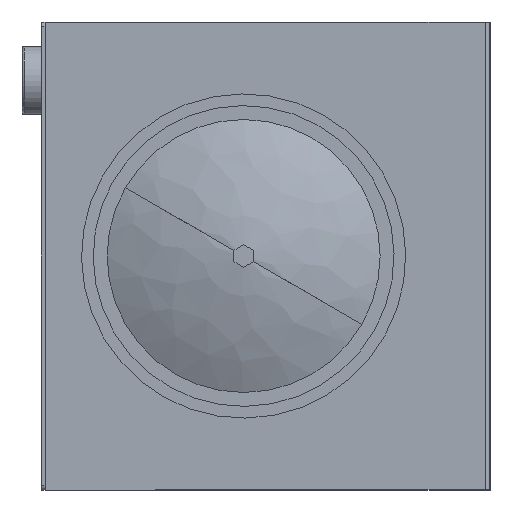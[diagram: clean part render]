
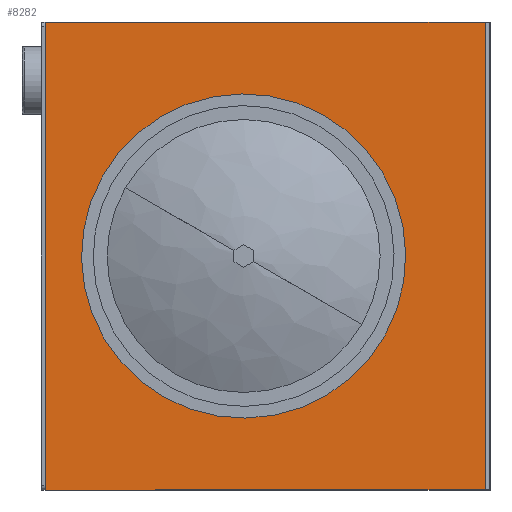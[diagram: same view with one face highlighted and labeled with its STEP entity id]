
A CAD part, left-side view. The second image highlights one B-rep face of the part: STEP entity #8282.
In plain terms, the highlighted planar face has unit normal (-1, 0, 0) as drawn and (1, 0, 0) by its records, which use the part's own axes.
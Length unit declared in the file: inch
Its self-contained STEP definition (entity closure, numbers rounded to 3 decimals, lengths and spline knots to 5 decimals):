
#3 = VERTEX_POINT ( 'NONE', #811 ) ;
#169 = CARTESIAN_POINT ( 'NONE',  ( 0., 11.40625, 12. ) ) ;
#336 = VECTOR ( 'NONE', #3989, 39.37008 ) ;
#441 = CARTESIAN_POINT ( 'NONE',  ( 0., 0., 0. ) ) ;
#557 = LINE ( 'NONE', #3275, #336 ) ;
#811 = CARTESIAN_POINT ( 'NONE',  ( 0., 1.22825, 7. ) ) ;
#862 = CIRCLE ( 'NONE', #3041, 7. ) ;
#866 = LINE ( 'NONE', #6350, #8083 ) ;
#883 = VERTEX_POINT ( 'NONE', #5051 ) ;
#1090 = CARTESIAN_POINT ( 'NONE',  ( 0., -11.15625, -12. ) ) ;
#1387 = DIRECTION ( 'NONE',  ( 0., 0., -1. ) ) ;
#1649 = AXIS2_PLACEMENT_3D ( 'NONE', #441, #6034, #8058 ) ;
#1941 = DIRECTION ( 'NONE',  ( 0., 1., 0. ) ) ;
#2036 = VECTOR ( 'NONE', #8534, 39.37008 ) ;
#2089 = CARTESIAN_POINT ( 'NONE',  ( 0., 1.22825, 0. ) ) ;
#2488 = CARTESIAN_POINT ( 'NONE',  ( 0., -11.15625, 12. ) ) ;
#2553 = PLANE ( 'NONE',  #1649 ) ;
#2648 = AXIS2_PLACEMENT_3D ( 'NONE', #7472, #8193, #3303 ) ;
#3041 = AXIS2_PLACEMENT_3D ( 'NONE', #2089, #6320, #1387 ) ;
#3056 = CARTESIAN_POINT ( 'NONE',  ( 0., -11.15625, 12. ) ) ;
#3097 = VECTOR ( 'NONE', #4485, 39.37008 ) ;
#3275 = CARTESIAN_POINT ( 'NONE',  ( 0., -11.40625, 12. ) ) ;
#3303 = DIRECTION ( 'NONE',  ( 0., 0., -1. ) ) ;
#3453 = EDGE_LOOP ( 'NONE', ( #3915, #6534 ) ) ;
#3615 = VERTEX_POINT ( 'NONE', #7895 ) ;
#3841 = ORIENTED_EDGE ( 'NONE', *, *, #9072, .T. ) ;
#3896 = ORIENTED_EDGE ( 'NONE', *, *, #7861, .T. ) ;
#3902 = VERTEX_POINT ( 'NONE', #8992 ) ;
#3915 = ORIENTED_EDGE ( 'NONE', *, *, #7721, .F. ) ;
#3989 = DIRECTION ( 'NONE',  ( 0., -1., 0. ) ) ;
#4256 = ORIENTED_EDGE ( 'NONE', *, *, #8257, .T. ) ;
#4485 = DIRECTION ( 'NONE',  ( 0., 0., -1. ) ) ;
#4627 = VERTEX_POINT ( 'NONE', #2488 ) ;
#4874 = CIRCLE ( 'NONE', #2648, 7. ) ;
#4958 = EDGE_CURVE ( 'NONE', #6292, #883, #866, .T. ) ;
#4998 = ORIENTED_EDGE ( 'NONE', *, *, #4958, .T. ) ;
#5051 = CARTESIAN_POINT ( 'NONE',  ( 0., 11.40625, -12. ) ) ;
#5584 = LINE ( 'NONE', #169, #2036 ) ;
#6034 = DIRECTION ( 'NONE',  ( -1., 0., 0. ) ) ;
#6292 = VERTEX_POINT ( 'NONE', #1090 ) ;
#6320 = DIRECTION ( 'NONE',  ( 1., 0., 0. ) ) ;
#6350 = CARTESIAN_POINT ( 'NONE',  ( 0., -11.40625, -12. ) ) ;
#6534 = ORIENTED_EDGE ( 'NONE', *, *, #8934, .F. ) ;
#6929 = EDGE_LOOP ( 'NONE', ( #3896, #4998, #3841, #4256 ) ) ;
#7472 = CARTESIAN_POINT ( 'NONE',  ( 0., 1.22825, 0. ) ) ;
#7552 = FACE_BOUND ( 'NONE', #3453, .T. ) ;
#7721 = EDGE_CURVE ( 'NONE', #3615, #3, #4874, .T. ) ;
#7777 = FACE_OUTER_BOUND ( 'NONE', #6929, .T. ) ;
#7861 = EDGE_CURVE ( 'NONE', #4627, #6292, #8653, .T. ) ;
#7895 = CARTESIAN_POINT ( 'NONE',  ( 0., 1.22825, -7. ) ) ;
#8058 = DIRECTION ( 'NONE',  ( 0., 0., 1. ) ) ;
#8083 = VECTOR ( 'NONE', #1941, 39.37008 ) ;
#8193 = DIRECTION ( 'NONE',  ( 1., 0., 0. ) ) ;
#8257 = EDGE_CURVE ( 'NONE', #3902, #4627, #557, .T. ) ;
#8282 = ADVANCED_FACE ( 'NONE', ( #7552, #7777 ), #2553, .F. ) ;
#8534 = DIRECTION ( 'NONE',  ( 0., 0., 1. ) ) ;
#8653 = LINE ( 'NONE', #3056, #3097 ) ;
#8934 = EDGE_CURVE ( 'NONE', #3, #3615, #862, .T. ) ;
#8992 = CARTESIAN_POINT ( 'NONE',  ( 0., 11.40625, 12. ) ) ;
#9072 = EDGE_CURVE ( 'NONE', #883, #3902, #5584, .T. ) ;
